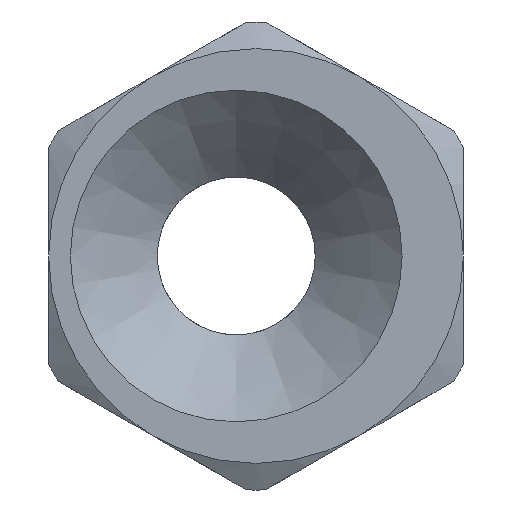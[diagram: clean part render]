
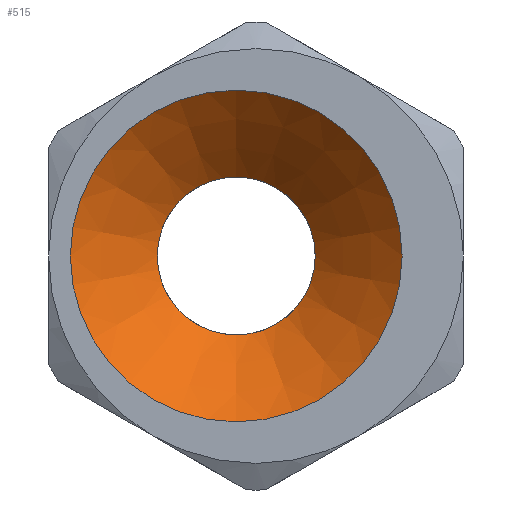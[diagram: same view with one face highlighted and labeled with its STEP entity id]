
A CAD part, left-side view. The second image highlights one B-rep face of the part: STEP entity #515.
In plain terms, the highlighted conical face has half-angle 45 degrees and reference radius 8.4 mm.
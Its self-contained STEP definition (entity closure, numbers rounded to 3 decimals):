
#56=CONICAL_SURFACE('',#590,8.4,0.785);
#72=CIRCLE('',#538,4.);
#97=CIRCLE('',#588,8.4);
#236=ORIENTED_EDGE('',*,*,#256,.T.);
#237=ORIENTED_EDGE('',*,*,#319,.F.);
#256=EDGE_CURVE('',#328,#328,#72,.T.);
#319=EDGE_CURVE('',#365,#365,#97,.T.);
#328=VERTEX_POINT('',#762);
#365=VERTEX_POINT('',#959);
#438=EDGE_LOOP('',(#236));
#439=EDGE_LOOP('',(#237));
#474=FACE_BOUND('',#438,.T.);
#475=FACE_BOUND('',#439,.T.);
#515=ADVANCED_FACE('',(#474,#475),#56,.F.);
#538=AXIS2_PLACEMENT_3D('',#761,#615,#616);
#588=AXIS2_PLACEMENT_3D('',#958,#729,#730);
#590=AXIS2_PLACEMENT_3D('',#961,#733,#734);
#615=DIRECTION('',(1.,0.,0.));
#616=DIRECTION('',(0.,0.,-1.));
#729=DIRECTION('',(1.,0.,0.));
#730=DIRECTION('',(0.,0.,-1.));
#733=DIRECTION('',(-1.,0.,0.));
#734=DIRECTION('',(0.,0.,1.));
#761=CARTESIAN_POINT('',(4.4,1.,0.));
#762=CARTESIAN_POINT('',(4.4,1.,-4.));
#958=CARTESIAN_POINT('',(0.,1.,0.));
#959=CARTESIAN_POINT('',(0.,1.,-8.4));
#961=CARTESIAN_POINT('',(0.,1.,0.));
